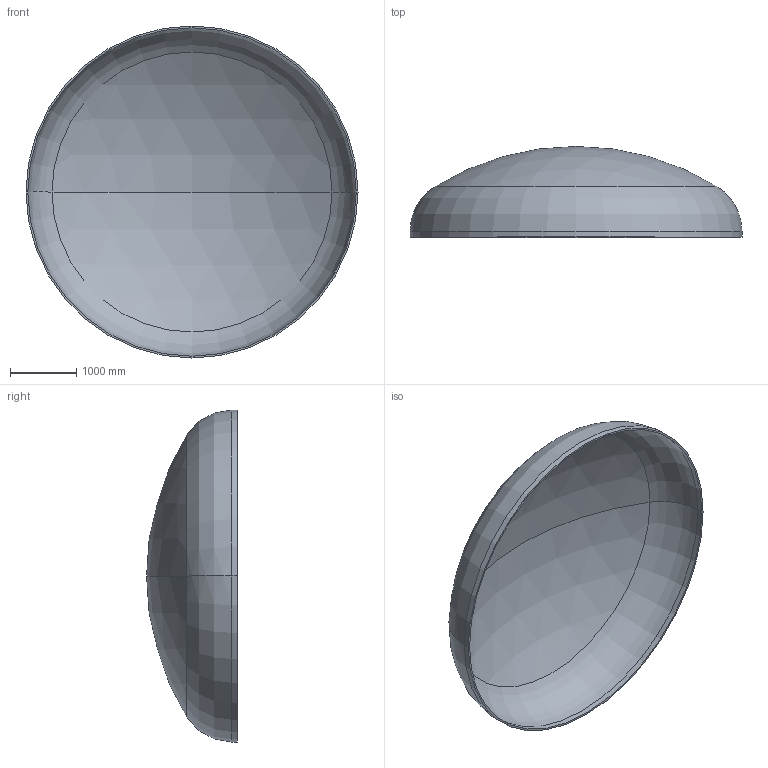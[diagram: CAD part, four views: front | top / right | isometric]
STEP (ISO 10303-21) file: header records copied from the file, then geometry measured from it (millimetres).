
FILE_DESCRIPTION (( 'STEP AP203' ), '1' );
FILE_NAME ('DIN 28013 Korbbogenform_-_Boden DIN 28013 - 5000 x 85 - I - s=27.step', '2016-07-02T00:17:12', ( '' ), ( '' ), 'SwSTEP 2.0', 'SolidWorks 2013', '' );
FILE_SCHEMA (( 'CONFIG_CONTROL_DESIGN' ));
Length unit declared in the file: millimetre
Products named in the file (1): DIN 28013 Korbbogenform_-_Boden DIN 28013 - 5000 x 85 - I - s=27
Bounding box: 5000 x 1367.43 x 5000 mm (x, y, z)
Volume: 764895183.9 mm3; surface area: 57082231.8 mm2
Topology: 1 solids, 1 shells, 13 faces, 24 edges, 14 vertices
Faces by surface type: torus 4, cylinder 4, sphere 4, plane 1
Entity records: 407 total; most frequent: DIRECTION 72, CARTESIAN_POINT 52, ORIENTED_EDGE 48, AXIS2_PLACEMENT_3D 34, EDGE_CURVE 24, CIRCLE 20, EDGE_LOOP 14, VERTEX_POINT 14
